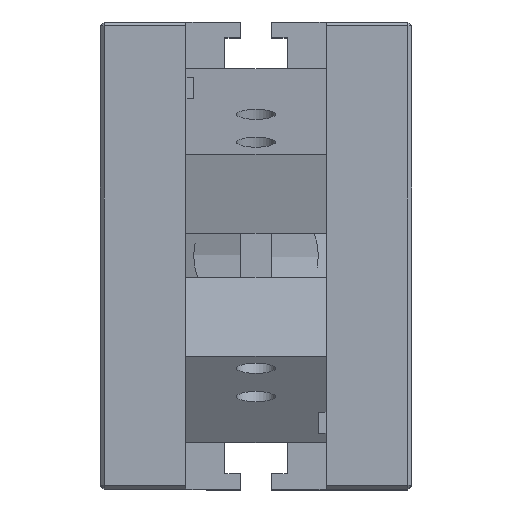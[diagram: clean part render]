
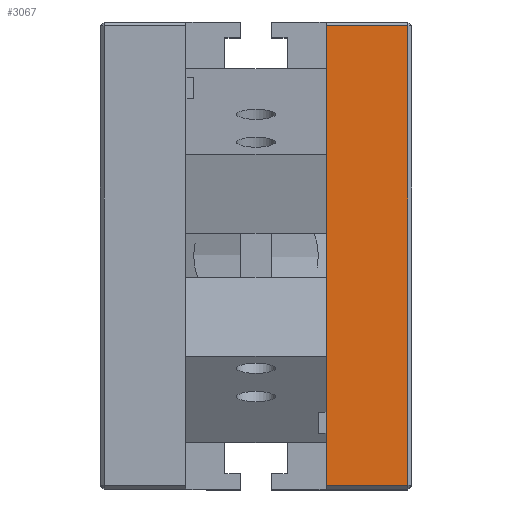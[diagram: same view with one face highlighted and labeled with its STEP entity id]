
A CAD part, top view. The second image highlights one B-rep face of the part: STEP entity #3067.
In plain terms, the highlighted planar face has unit normal (0, 0, 1) as drawn and (0, 0, -1) by its records, which use the part's own axes.
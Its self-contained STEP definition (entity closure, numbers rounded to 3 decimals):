
#3067 = ADVANCED_FACE ( 'NONE', ( #17246 ), #17251, .T. ) ;
#3070 = ORIENTED_EDGE ( 'NONE', *, *, #3073, .T. ) ;
#3071 = ORIENTED_EDGE ( 'NONE', *, *, #3074, .F. ) ;
#3073 = EDGE_CURVE ( 'NONE', #3100, #3130, #17242, .T. ) ;
#3074 = EDGE_CURVE ( 'NONE', #3100, #3123, #17235, .T. ) ;
#3078 = VERTEX_POINT ( 'NONE', #17284 ) ;
#3079 = ORIENTED_EDGE ( 'NONE', *, *, #3080, .T. ) ;
#3080 = EDGE_CURVE ( 'NONE', #3130, #3078, #17240, .T. ) ;
#3083 = ORIENTED_EDGE ( 'NONE', *, *, #3093, .T. ) ;
#3093 = EDGE_CURVE ( 'NONE', #3078, #3123, #17270, .T. ) ;
#3100 = VERTEX_POINT ( 'NONE', #17304 ) ;
#3116 = EDGE_LOOP ( 'NONE', ( #3071, #3070, #3079, #3083 ) ) ;
#3123 = VERTEX_POINT ( 'NONE', #17455 ) ;
#3130 = VERTEX_POINT ( 'NONE', #17383 ) ;
#17232 = DIRECTION ( 'NONE',  ( 0., 1., 0. ) ) ;
#17233 = VECTOR ( 'NONE', #17232, 1000. ) ;
#17234 = CARTESIAN_POINT ( 'NONE',  ( 11., 0., 0. ) ) ;
#17235 = LINE ( 'NONE', #17234, #17233 ) ;
#17236 = DIRECTION ( 'NONE',  ( -1., 0., 0. ) ) ;
#17237 = VECTOR ( 'NONE', #17236, 1000. ) ;
#17238 = CARTESIAN_POINT ( 'NONE',  ( 0., 0.5, 0. ) ) ;
#17240 = LINE ( 'NONE', #17282, #17271 ) ;
#17241 = DIRECTION ( 'NONE',  ( -1., 0., 0. ) ) ;
#17242 = LINE ( 'NONE', #17238, #17237 ) ;
#17244 = DIRECTION ( 'NONE',  ( 0., 0., -1. ) ) ;
#17245 = AXIS2_PLACEMENT_3D ( 'NONE', #17252, #17244, #17241 ) ;
#17246 = FACE_OUTER_BOUND ( 'NONE', #3116, .T. ) ;
#17251 = PLANE ( 'NONE',  #17245 ) ;
#17252 = CARTESIAN_POINT ( 'NONE',  ( 40., 60., 0. ) ) ;
#17269 = CARTESIAN_POINT ( 'NONE',  ( 11., 59.5, 0. ) ) ;
#17270 = LINE ( 'NONE', #17269, #17313 ) ;
#17271 = VECTOR ( 'NONE', #17281, 1000. ) ;
#17281 = DIRECTION ( 'NONE',  ( 0., 1., 0. ) ) ;
#17282 = CARTESIAN_POINT ( 'NONE',  ( 0.5, 60., 0. ) ) ;
#17284 = CARTESIAN_POINT ( 'NONE',  ( 0.5, 59.5, 0. ) ) ;
#17304 = CARTESIAN_POINT ( 'NONE',  ( 11., 0.5, 0. ) ) ;
#17312 = DIRECTION ( 'NONE',  ( 1., 0., 0. ) ) ;
#17313 = VECTOR ( 'NONE', #17312, 1000. ) ;
#17383 = CARTESIAN_POINT ( 'NONE',  ( 0.5, 0.5, 0. ) ) ;
#17455 = CARTESIAN_POINT ( 'NONE',  ( 11., 59.5, 0. ) ) ;
